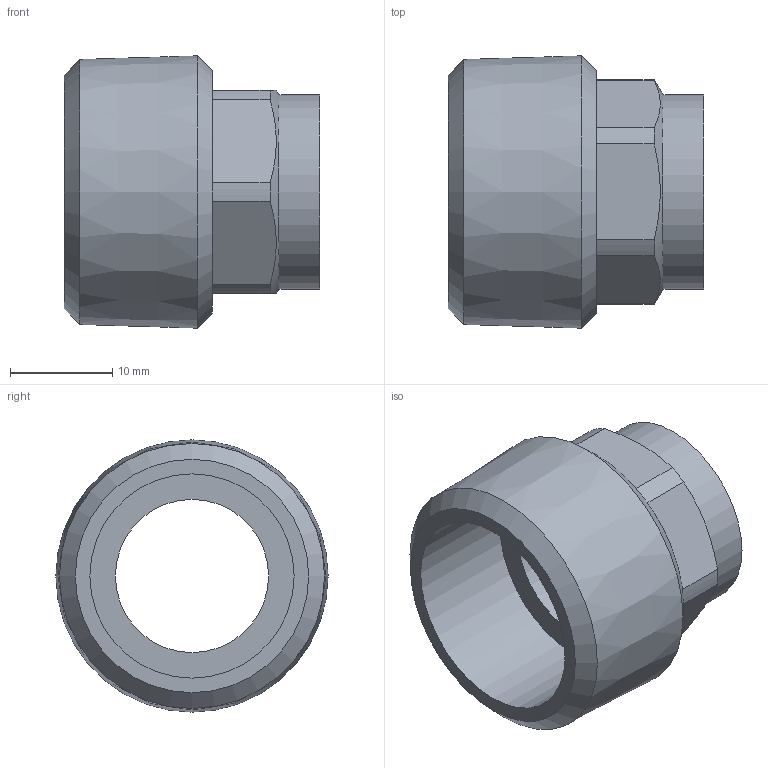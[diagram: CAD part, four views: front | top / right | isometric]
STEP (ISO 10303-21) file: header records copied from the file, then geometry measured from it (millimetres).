
FILE_DESCRIPTION((''),'2;1');
FILE_NAME('\\Lg50001\Groups\SANHA Legnica\Engineering\Public\RYSUNKI\SANHA POLSKA\4243G\step\14243_16-34(2).stp','2008-08-21T15:57:54',('pajchrowski'),(''),'Autodesk Inventor 2008','Autodesk Inventor 2008','');
FILE_SCHEMA(('AUTOMOTIVE_DESIGN { 1 0 10303 214 1 1 1 1 }'));
Length unit declared in the file: millimetre
Products named in the file (1): 14243_16-34(2)
Bounding box: 25 x 26.66 x 26.66 mm (x, y, z)
Volume: 4807.7 mm3; surface area: 3818.9 mm2
Topology: 1 solids, 1 shells, 25 faces, 57 edges, 37 vertices
Faces by surface type: plane 11, cylinder 10, cone 4
Full cylindrical faces by diameter (mm): 15 x1, 16.11 x1, 19 x1, 20 x1
Entity records: 686 total; most frequent: CARTESIAN_POINT 122, DIRECTION 118, ORIENTED_EDGE 96, AXIS2_PLACEMENT_3D 50, EDGE_CURVE 48, EDGE_LOOP 38, VERTEX_POINT 36, FACE_OUTER_BOUND 25
